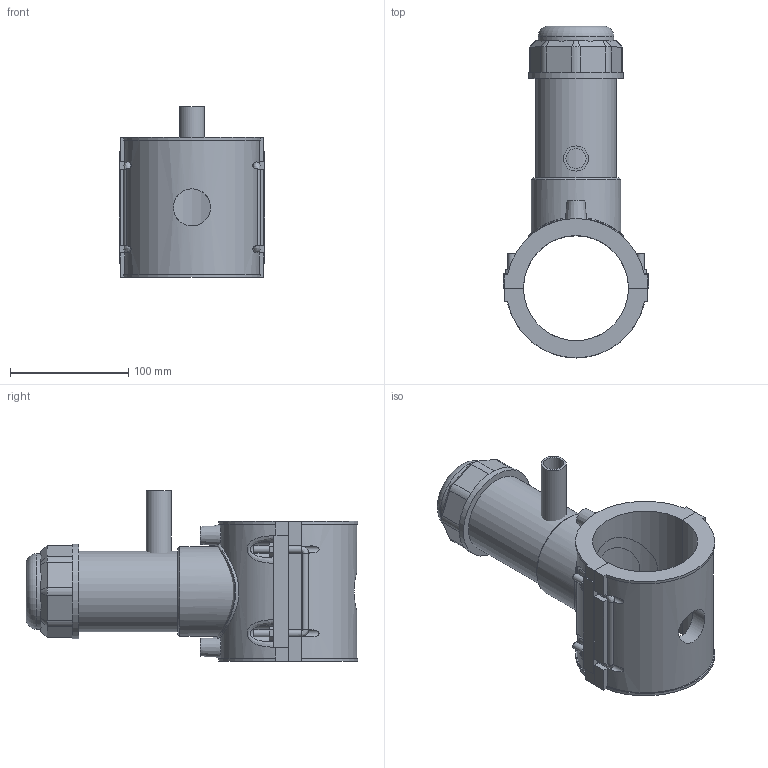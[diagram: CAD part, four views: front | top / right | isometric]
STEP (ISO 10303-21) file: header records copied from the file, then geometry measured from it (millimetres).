
FILE_DESCRIPTION(/* description */ ('PLASSON TAPPING SADDLE 3''''IPS x 1/2''''IPS'),/* implementation_level */ '2;1');
FILE_NAME(/* name */ 'C:\Dropbox\KIMPROJECTS-Inventor 2019\99-16-3568-Processing Inch\ASTM ElectroFusion 2021\5963BBP_5963BUP\5963BBP3030005.ipt.stp',/* time_stamp */ '2021-08-30T09:56:49+03:00',/* author */ ('KIM'),/* organization */ (''),/* preprocessor_version */ 'ST-DEVELOPER v17.2',/* originating_system */ 'Autodesk Inventor 2019',/* authorisation */ '');
FILE_SCHEMA (('AUTOMOTIVE_DESIGN { 1 0 10303 214 3 1 1 }'));
Length unit declared in the file: inch
Products named in the file (1): 5963BBP3030005
Bounding box: 122.9 x 280.2 x 144.15 mm (x, y, z)
Volume: 931550.2 mm3; surface area: 189161.4 mm2
Topology: 3 solids, 3 shells, 204 faces, 543 edges, 356 vertices
Faces by surface type: plane 125, cylinder 53, cone 15, bspline 10, torus 1
Full cylindrical faces by diameter (mm): 4 x2, 6 x8, 10 x2, 16.96 x1, 21.2 x1, 31.36 x1, 55.881 x1, 63.864 x1, 67.856 x1, 75.839 x1, 79.83 x1
Entity records: 7875 total; most frequent: CARTESIAN_POINT 2739, ORIENTED_EDGE 1086, DIRECTION 1022, EDGE_CURVE 543, VERTEX_POINT 356, AXIS2_PLACEMENT_3D 351, LINE 320, VECTOR 320
